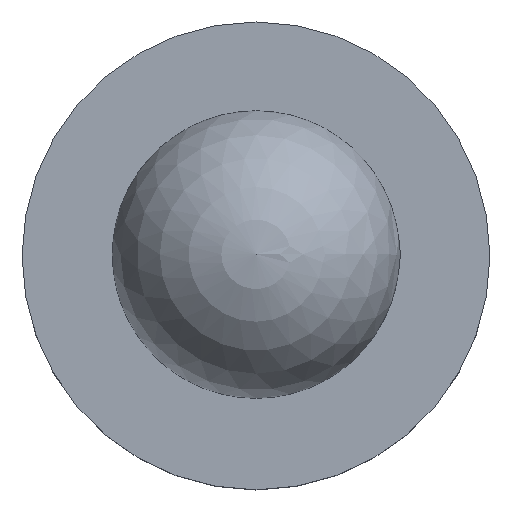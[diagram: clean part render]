
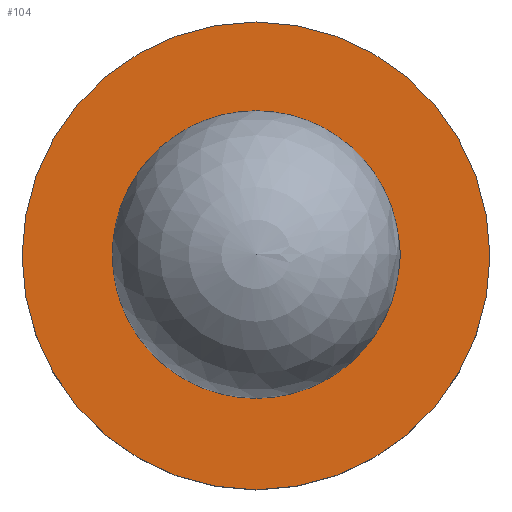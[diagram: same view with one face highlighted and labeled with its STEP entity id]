
A CAD part, top view. The second image highlights one B-rep face of the part: STEP entity #104.
In plain terms, the highlighted planar face has unit normal (0, 0, 1).
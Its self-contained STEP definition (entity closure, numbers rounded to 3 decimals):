
#83 = EDGE_CURVE('',#84,#84,#86,.T.);
#84 = VERTEX_POINT('',#85);
#85 = CARTESIAN_POINT('',(4.2,0.,46.2));
#86 = CIRCLE('',#87,4.2);
#87 = AXIS2_PLACEMENT_3D('',#88,#89,#90);
#88 = CARTESIAN_POINT('',(0.,0.,46.2));
#89 = DIRECTION('',(0.,0.,1.));
#90 = DIRECTION('',(1.,0.,-0.));
#104 = ADVANCED_FACE('',(#105,#108),#119,.T.);
#105 = FACE_BOUND('',#106,.T.);
#106 = EDGE_LOOP('',(#107));
#107 = ORIENTED_EDGE('',*,*,#83,.T.);
#108 = FACE_BOUND('',#109,.T.);
#109 = EDGE_LOOP('',(#110));
#110 = ORIENTED_EDGE('',*,*,#111,.F.);
#111 = EDGE_CURVE('',#112,#112,#114,.T.);
#112 = VERTEX_POINT('',#113);
#113 = CARTESIAN_POINT('',(1.2,0.,46.2));
#114 = CIRCLE('',#115,1.2);
#115 = AXIS2_PLACEMENT_3D('',#116,#117,#118);
#116 = CARTESIAN_POINT('',(0.,0.,46.2));
#117 = DIRECTION('',(0.,0.,1.));
#118 = DIRECTION('',(1.,0.,-0.));
#119 = PLANE('',#120);
#120 = AXIS2_PLACEMENT_3D('',#121,#122,#123);
#121 = CARTESIAN_POINT('',(0.,0.,46.2));
#122 = DIRECTION('',(0.,0.,1.));
#123 = DIRECTION('',(1.,0.,-0.));
